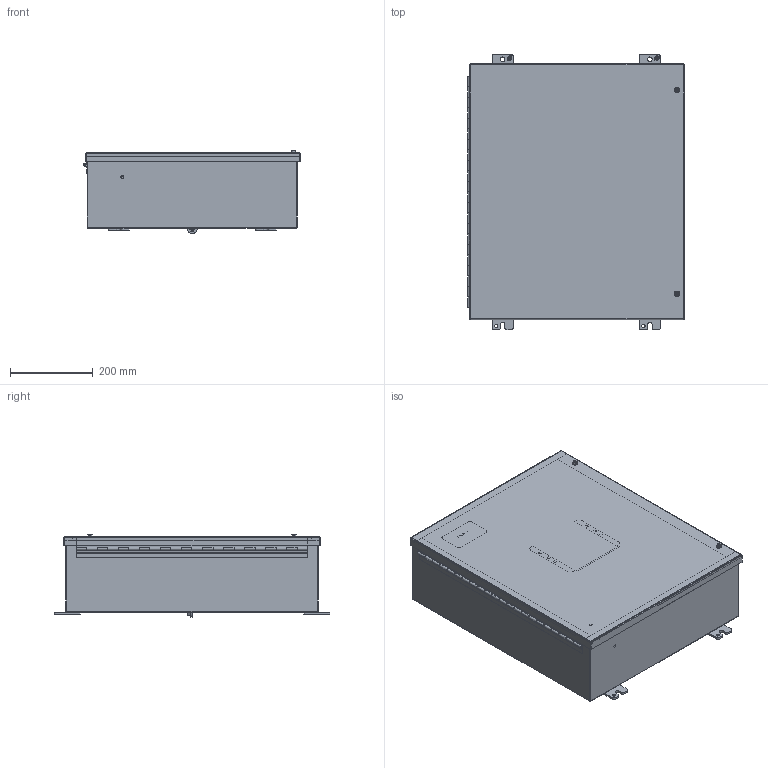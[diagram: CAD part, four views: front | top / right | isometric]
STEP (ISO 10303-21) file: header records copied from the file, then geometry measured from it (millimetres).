
FILE_DESCRIPTION(/* description */ ('Unknown'),/* implementation_level */ '2;1');
FILE_NAME(/* name */ '1418JE7',/* time_stamp */ '2018-10-09T09:20:13-04:00',/* author */ ('Unknown'),/* organization */ ('Unknown'),/* preprocessor_version */ 'ST-DEVELOPER v16.7',/* originating_system */ 'DEX',/* authorisation */ $);
FILE_SCHEMA (('AUTOMOTIVE_DESIGN {1 0 10303 214 3 1 1}'));
Length unit declared in the file: millimetre
Products named in the file (31): 1418JE7; RVT19021; FET07710; STD21878; STD26094; COM40674; COM48715; COM56142-3; COM56142-3B; COM52228; QLB20213; KIT90256; LAB30005; NTS165305; NTS16535; PKT66; AKT95002; WAF25059; NTS166105; BUL10020; GSK10115_oa_0; AKT95037; RNG17670; SCC180505; WAM25540; GSK10110_oa_1; GSK10110_oa_2; KIT95018; GSK10110_oa_3
Assembly tree (43 placements, depth 4):
  1418JE7
    RVT19021  x2
    FET07710  x4
    STD21878
    STD26094  x4
    COM40674
    COM48715
      COM56142-3
        COM56142-3B
        COM56142-3
      STD21878
      COM48715
    COM52228
    QLB20213
    KIT90256
      LAB30005
      NTS165305
      NTS16535
    PKT66
    AKT95002  x2
      WAF25059
      NTS166105
    BUL10020
    GSK10115_oa_0
    AKT95037  x2
      RNG17670
      SCC180505
      WAM25540
    GSK10110_oa_1
    GSK10110_oa_2
    KIT95018
      WAF25059
      NTS166105
      LAB30005
    GSK10110_oa_3
Bounding box: 523.33 x 666.75 x 200.25 mm (x, y, z)
Volume: 3121270.6 mm3; surface area: 3027601.4 mm2
Topology: 37 solids, 37 shells, 942 faces, 2385 edges, 1547 vertices
Faces by surface type: plane 665, cylinder 219, bspline 22, cone 18, torus 16, sphere 2
Full cylindrical faces by diameter (mm): 4.763 x2, 4.976 x1, 6.198 x2, 6.35 x3, 6.604 x2, 6.756 x2, 7.112 x2, 7.137 x2, 7.366 x2, 7.805 x3, 7.938 x4, 8.382 x4, 9.525 x4, 9.906 x2, 10.084 x2, 11.113 x4, 11.303 x3, 12.7 x6, 12.954 x2, 16.51 x4, 25.4 x3, 88.9 x1
Entity records: 23807 total; most frequent: CARTESIAN_POINT 6630, ORIENTED_EDGE 3406, DIRECTION 3338, EDGE_CURVE 1703, LINE 1208, VECTOR 1208, VERTEX_POINT 1117, AXIS2_PLACEMENT_3D 1065
